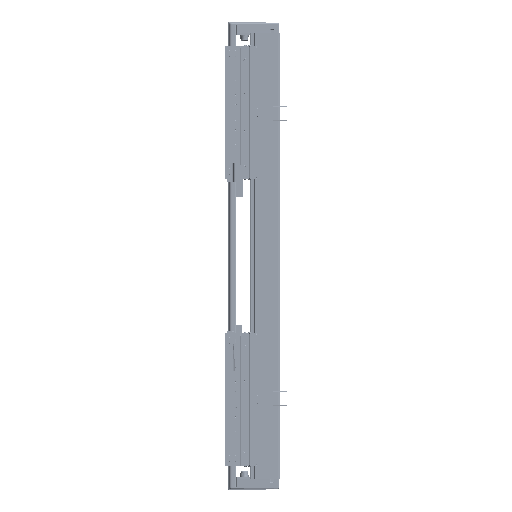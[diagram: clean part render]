
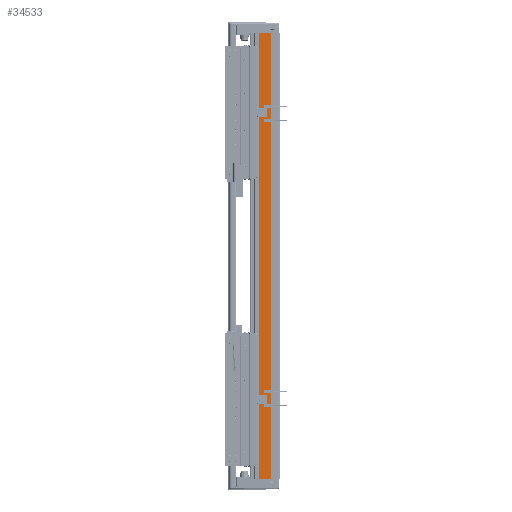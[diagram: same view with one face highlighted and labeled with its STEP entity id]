
A CAD part, left-side view. The second image highlights one B-rep face of the part: STEP entity #34533.
In plain terms, the highlighted planar face has unit normal (-1, 0, 0).
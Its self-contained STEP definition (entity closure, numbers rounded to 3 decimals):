
#3373 = AXIS2_PLACEMENT_3D ( 'NONE', #90736, #123675, #11492 ) ;
#5475 = CARTESIAN_POINT ( 'NONE',  ( -97.5, 36.95, 420. ) ) ;
#11492 = DIRECTION ( 'NONE',  ( 0., 1., 0. ) ) ;
#12815 = VECTOR ( 'NONE', #126153, 1000. ) ;
#27398 = ORIENTED_EDGE ( 'NONE', *, *, #60393, .T. ) ;
#28587 = EDGE_CURVE ( 'NONE', #72067, #113366, #137327, .T. ) ;
#34533 = ADVANCED_FACE ( 'NONE', ( #78076 ), #101964, .F. ) ;
#39998 = ORIENTED_EDGE ( 'NONE', *, *, #102494, .F. ) ;
#45305 = LINE ( 'NONE', #88713, #70779 ) ;
#50872 = EDGE_LOOP ( 'NONE', ( #27398, #92328, #39998, #98439 ) ) ;
#60393 = EDGE_CURVE ( 'NONE', #80883, #113366, #45305, .T. ) ;
#64001 = VECTOR ( 'NONE', #119698, 1000. ) ;
#67797 = CARTESIAN_POINT ( 'NONE',  ( -97.5, 14.45, 420. ) ) ;
#70779 = VECTOR ( 'NONE', #99922, 1000. ) ;
#72067 = VERTEX_POINT ( 'NONE', #124892 ) ;
#78076 = FACE_OUTER_BOUND ( 'NONE', #50872, .T. ) ;
#80883 = VERTEX_POINT ( 'NONE', #88720 ) ;
#88713 = CARTESIAN_POINT ( 'NONE',  ( -97.5, 36.95, -420. ) ) ;
#88720 = CARTESIAN_POINT ( 'NONE',  ( -97.5, 36.95, -420. ) ) ;
#90736 = CARTESIAN_POINT ( 'NONE',  ( -97.5, 36.95, 420. ) ) ;
#92328 = ORIENTED_EDGE ( 'NONE', *, *, #28587, .F. ) ;
#97241 = LINE ( 'NONE', #142078, #64001 ) ;
#98439 = ORIENTED_EDGE ( 'NONE', *, *, #134232, .T. ) ;
#99922 = DIRECTION ( 'NONE',  ( 0., -1., 0. ) ) ;
#100322 = VERTEX_POINT ( 'NONE', #109826 ) ;
#101964 = PLANE ( 'NONE',  #3373 ) ;
#102494 = EDGE_CURVE ( 'NONE', #100322, #72067, #132533, .T. ) ;
#109826 = CARTESIAN_POINT ( 'NONE',  ( -97.5, 36.95, 420. ) ) ;
#113366 = VERTEX_POINT ( 'NONE', #141288 ) ;
#119698 = DIRECTION ( 'NONE',  ( 0., 0., -1. ) ) ;
#121361 = DIRECTION ( 'NONE',  ( 0., -1., 0. ) ) ;
#123675 = DIRECTION ( 'NONE',  ( 1., 0., 0. ) ) ;
#124892 = CARTESIAN_POINT ( 'NONE',  ( -97.5, 14.45, 420. ) ) ;
#126153 = DIRECTION ( 'NONE',  ( 0., 0., -1. ) ) ;
#128438 = VECTOR ( 'NONE', #121361, 1000. ) ;
#132533 = LINE ( 'NONE', #5475, #128438 ) ;
#134232 = EDGE_CURVE ( 'NONE', #100322, #80883, #97241, .T. ) ;
#137327 = LINE ( 'NONE', #67797, #12815 ) ;
#141288 = CARTESIAN_POINT ( 'NONE',  ( -97.5, 14.45, -420. ) ) ;
#142078 = CARTESIAN_POINT ( 'NONE',  ( -97.5, 36.95, 420. ) ) ;
